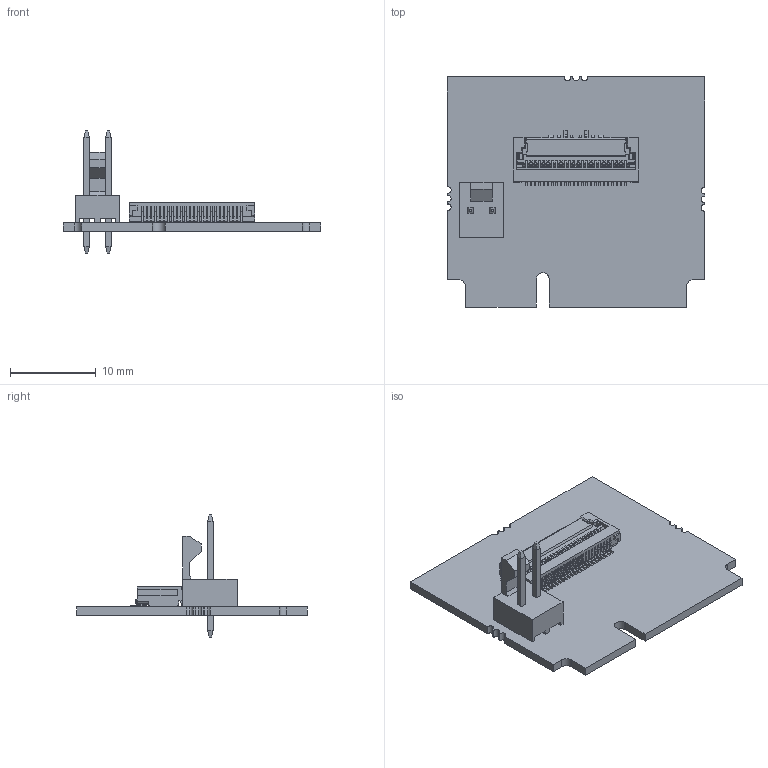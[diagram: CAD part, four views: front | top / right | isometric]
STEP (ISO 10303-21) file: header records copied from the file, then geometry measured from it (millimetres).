
FILE_DESCRIPTION(/* description */ ('step model'),/* implementation_level */ '2;1');
FILE_NAME(/* name */ 'ADPT-MX-X2G2-MINI-PCIE.stp',/* time_stamp */ '2017-09-04T14:34:13+02:00',/* author */ ('Spano'),/* organization */ ('Ximea'),/* preprocessor_version */ 'ST-DEVELOPER v16',/* originating_system */ 'SIEMENS PLM Software NX 11.0',/* authorisation */ '');
FILE_SCHEMA (('AUTOMOTIVE_DESIGN { 1 0 10303 214 3 1 1 1 }'));
Length unit declared in the file: millimetre
Products named in the file (1): ADPT-MX-X2G2-MINI-PCIE
Bounding box: 30 x 26.8 x 14.22 mm (x, y, z)
Volume: 1019.6 mm3; surface area: 2436.6 mm2
Topology: 5 solids, 5 shells, 1581 faces, 5074 edges, 3331 vertices
Faces by surface type: plane 1254, cylinder 327
Entity records: 55629 total; most frequent: ORIENTED_EDGE 10148, CARTESIAN_POINT 9987, DIRECTION 8908, EDGE_CURVE 5074, LINE 4404, VECTOR 4404, VERTEX_POINT 3331, AXIS2_PLACEMENT_3D 2252
